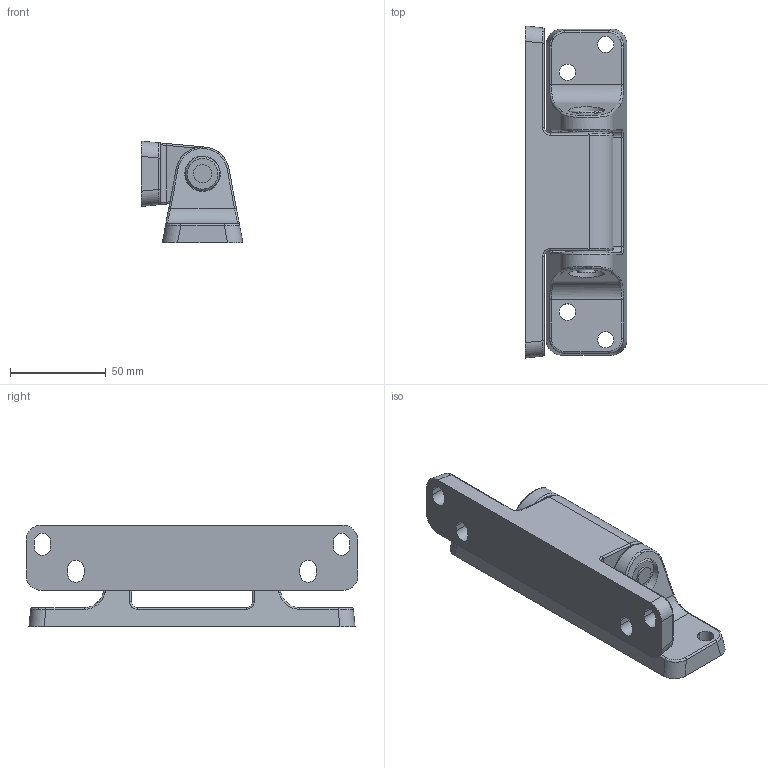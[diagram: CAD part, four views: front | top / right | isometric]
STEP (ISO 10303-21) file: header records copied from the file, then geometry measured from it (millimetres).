
FILE_DESCRIPTION (( 'STEP AP203' ), '1' );
FILE_NAME ('EFH-110S-1.STEP', '2013-08-14T12:00:10', ( '中村　妙子' ), ( 'ＮＴ設計' ), 'SwSTEP 2.0', 'SolidWorks 2002296', '' );
FILE_SCHEMA (( 'CONFIG_CONTROL_DESIGN' ));
Length unit declared in the file: millimetre
Products named in the file (5): EFH-110S-1; EFH-110S-1-1_蹬怮椔; EFH-110S-1-2_蹬怮椔; EFH-110S-1-3_蹬怮椔; EFH-110S-1-4_蹬怮椔
Assembly tree (5 placements, depth 2):
  EFH-110S-1
    EFH-110S-1-4_蹬怮椔  x2
    EFH-110S-1-3_蹬怮椔
    EFH-110S-1-1_蹬怮椔
    EFH-110S-1-2_蹬怮椔
Bounding box: 53 x 173 x 53 mm (x, y, z)
Volume: 209366.2 mm3; surface area: 53822.8 mm2
Topology: 5 solids, 5 shells, 154 faces, 367 edges, 226 vertices
Faces by surface type: cylinder 79, plane 38, bspline 27, cone 6, torus 4
Entity records: 12838 total; most frequent: CARTESIAN_POINT 8979, ORIENTED_EDGE 710, DIRECTION 680, EDGE_CURVE 355, AXIS2_PLACEMENT_3D 262, VERTEX_POINT 218, EDGE_LOOP 175, LINE 156
